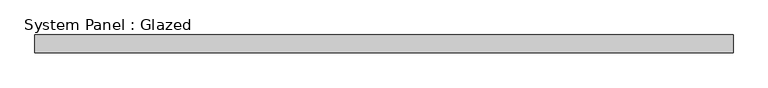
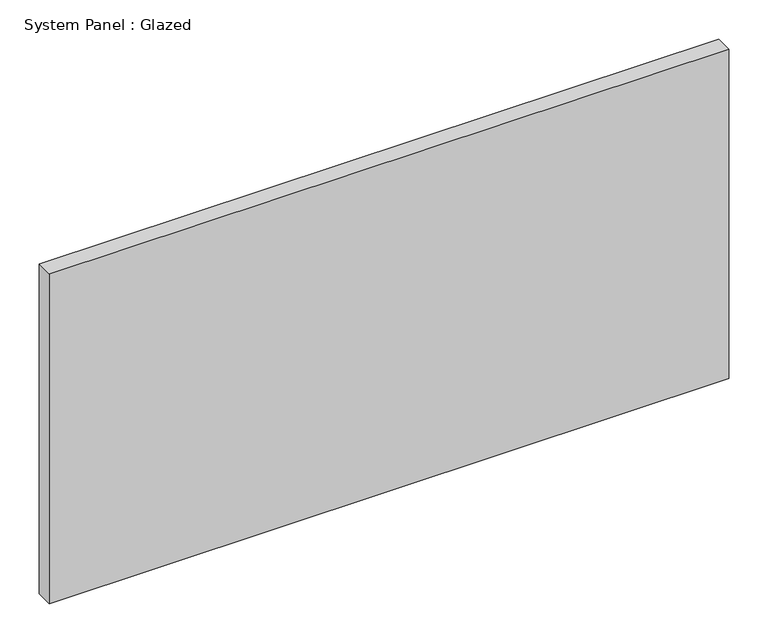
"""IFC4 building model written with IfcOpenShell, lengths in millimetres: plate geometry, System Panel : Glazed."""

from ifc_helpers import new_model, si_unit, origin, origin_with_axes, place, context, project, spatial, polyline, outline, extrude, source, transform, mapped, element, save


def system_panel_glazed_065c974c(model_context):
    return source(origin(), model_context, "Body", "SweptSolid", [
        extrude(outline(polyline([(501.1964285, 19.05), (-501.1964285, 19.05), (-501.1964285, 44.45), (501.1964285, 44.45), (501.1964285, 19.05)])), origin_with_axes(), (0.0, 0.0, 1.0), 514.35),
    ])


if __name__ == "__main__":
    model = new_model("IFC4")
    model_context = context("Model", 3, world=origin())
    ifc_project = project(units=[si_unit("LENGTHUNIT", "METRE", prefix="MILLI")], contexts=[model_context])
    site = spatial("IfcSite", under=ifc_project)
    building = spatial("IfcBuilding", under=site)
    placement = place(None, origin())
    system_panel_glazed_shape = system_panel_glazed_065c974c(model_context)
    element("IfcPlate", 1, ObjectType="System Panel : Glazed", at=placement, inside=building, context=model_context, shape_type="MappedRepresentation", body=[
        mapped(system_panel_glazed_shape, transform((0.0, 0.0, 0.0), x_axis=(1.0, 0.0, 0.0), y_axis=(0.0, 1.0, 0.0), z_axis=(0.0, 0.0, 1.0))),
    ])
    save(model, "model.ifc")
